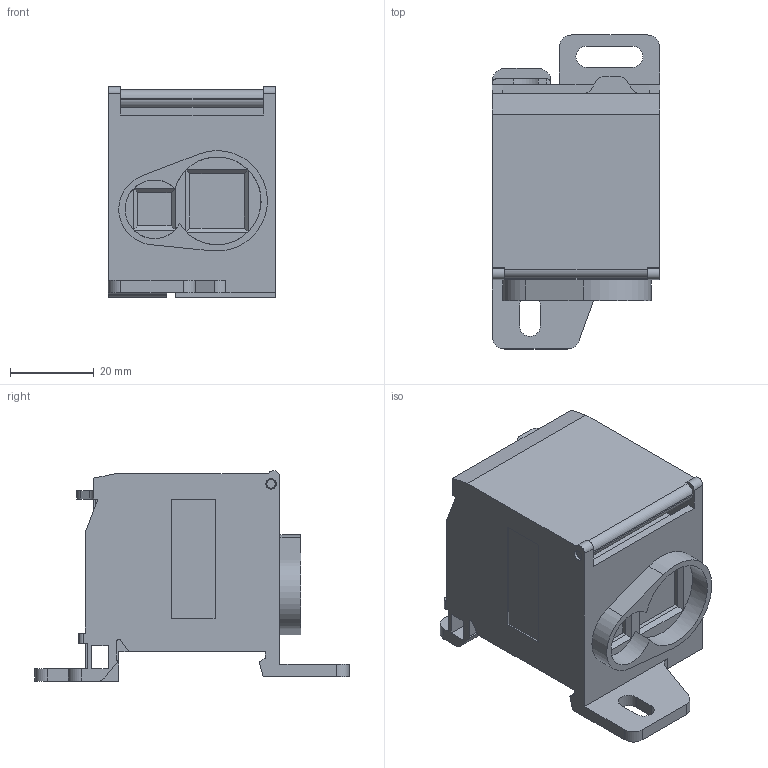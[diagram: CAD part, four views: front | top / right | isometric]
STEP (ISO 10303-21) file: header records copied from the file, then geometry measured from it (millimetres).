
FILE_DESCRIPTION(('STEP AP203'), '1');
FILE_NAME('AVD 35-16_16 1-1_8', '2022-06-10T06:05:49', ('admin'), (''), 'C3D Converter', 'C3D Toolkit', '');
FILE_SCHEMA(('CONFIG_CONTROL_DESIGN'));
Length unit declared in the file: millimetre
Products named in the file (1): AVD 35-16/16 1-1/8
Bounding box: 40 x 75 x 50.24 mm (x, y, z)
Volume: 59571.1 mm3; surface area: 23090.1 mm2
Topology: 1 solids, 1 shells, 213 faces, 582 edges, 385 vertices
Faces by surface type: plane 154, cylinder 59
Full cylindrical faces by diameter (mm): 2 x2, 2.5 x2, 7 x8
Entity records: 8522 total; most frequent: CARTESIAN_POINT 1311, ORIENTED_EDGE 1140, DIRECTION 1113, EDGE_CURVE 570, LINE 417, VECTOR 417, VERTEX_POINT 385, AXIS2_PLACEMENT_3D 348
